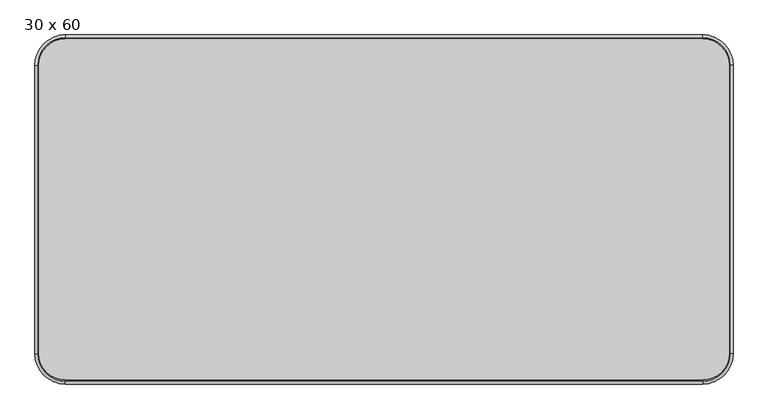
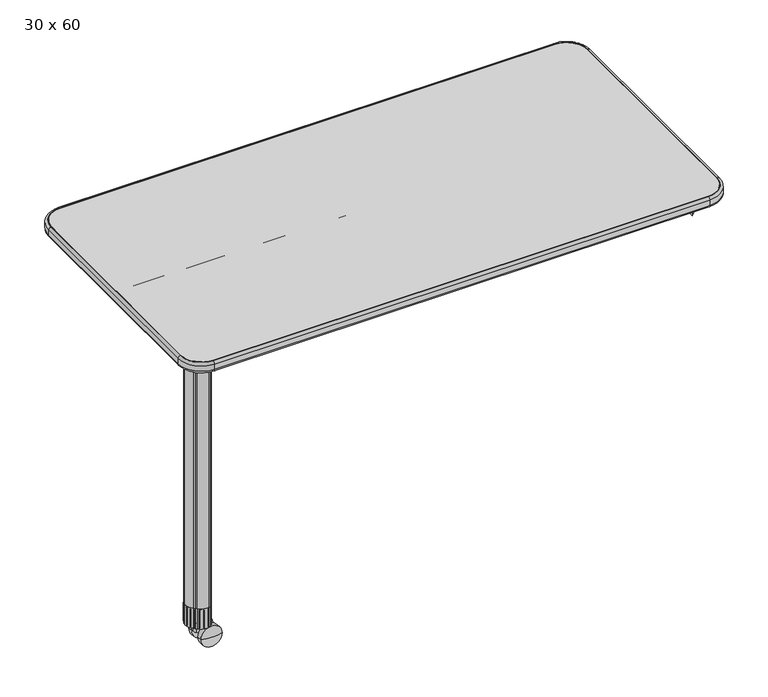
"""IFC4 building model written with IfcOpenShell, lengths in millimetres: furniture geometry, SmithSystem_AM_Desking_Education_Interchange_Student_Activity : 30 x 60."""

from ifc_helpers import new_model, si_unit, point, frame, frame_2d, origin, place, context, project, spatial, polyline, circle_curve, ellipse_curve, trimmed, segment, composite_curve, outline, extrude, source, transform, mapped, element, save
from ifc_brep_helpers import plane_surface, cylinder_surface, revolved_surface, advanced_brep


def furniture_30_x_60_6667bd11(model_context):
    return source(origin(), model_context, "Body", "SolidModel", [
        advanced_brep(
        [(44.3181701, 75.4828432, 35.017382), (104.9234839, 75.4828432, 35.017382), (74.620827, 75.4828432, 35.017382), (74.620827, 93.8056302, 35.017382), (104.9234839, 88.7241133, 35.017382), (44.3181701, 88.7241133, 35.017382)],
        [
            (0, 1, circle_curve(frame((74.620827, 75.4828432, 35.017382), z_axis=(0.0, -1.0, 0.0), x_axis=(1.0000000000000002, 0.0, 0.0)), 30.3026569)),
            (1, 2),
            (2, 0),
            (1, 0, circle_curve(frame((74.620827, 75.4828432, 35.017382), z_axis=(0.0, -1.0, 0.0), x_axis=(1.0000000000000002, 0.0, 0.0)), 30.3026569)),
            (3, 4, circle_curve(frame((74.620827, 0.9128138, 35.017382), z_axis=(0.0, 0.0, -1.0000000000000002), x_axis=(0.0, -1.0, 0.0)), 92.8928164)),
            (4, 5, circle_curve(frame((74.620827, 88.7241133, 35.017382), z_axis=(0.0, 1.0, 0.0), x_axis=(1.0000000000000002, 0.0, 0.0)), 30.3026569)),
            (5, 3, circle_curve(frame((74.620827, 0.9128138, 35.017382), z_axis=(0.0, 0.0, -1.0000000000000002), x_axis=(0.0, -1.0, 0.0)), 92.8928164)),
            (5, 4, circle_curve(frame((74.620827, 88.7241133, 35.017382), z_axis=(0.0, 1.0, 0.0), x_axis=(1.0000000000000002, 0.0, 0.0)), 30.3026569)),
            (4, 1),
            (0, 5),
        ],
        [
            plane_surface(frame((74.620827, 75.4828432, 35.017382), z_axis=(0.0, -1.0, 0.0), x_axis=(1.0, 0.0, 0.0))),
            revolved_surface(trimmed(ellipse_curve(frame((74.620827, 0.9128138, 35.017382), z_axis=(0.0, 0.0, 1.0000000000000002), x_axis=(0.0, -1.0, 0.0)), 92.8928164, 92.8928164), [point((104.9234839, 88.7241133, 35.017382))], [point((74.620827, 93.8056302, 35.017382))], True, "CARTESIAN"), (74.620827, 75.4828432, 35.017382), (0.0, 1.0, 0.0)),
            cylinder_surface(frame((74.620827, 75.4828432, 35.017382), z_axis=(0.0, 1.0, 0.0), x_axis=(1.0000000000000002, 0.0, 0.0)), 30.3026569),
        ],
        [
            (0, [[1, 2, 3]]),
            (0, [[4, -3, -2]]),
            (1, [[5, 6, 7]]),
            (1, [[-7, 8, -5]]),
            (2, [[-6, 9, -1, 10]]),
            (2, [[-8, -10, -4, -9]]),
        ],
    ),
        advanced_brep(
        [(44.3181701, 44.8805061, 35.017382), (104.9234839, 44.8805061, 35.017382), (104.9234839, 31.639236, 35.017382), (44.3181701, 31.639236, 35.017382), (74.620827, 26.5577191, 35.017382), (74.620827, 44.8805061, 35.017382)],
        [
            (0, 1, circle_curve(frame((74.620827, 44.8805061, 35.017382), z_axis=(0.0, -1.0, 0.0), x_axis=(1.0000000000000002, 0.0, 0.0)), 30.3026569)),
            (1, 2),
            (2, 3, circle_curve(frame((74.620827, 31.639236, 35.017382), z_axis=(0.0, 1.0, 0.0), x_axis=(1.0000000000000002, 0.0, 0.0)), 30.3026569)),
            (3, 0),
            (1, 0, circle_curve(frame((74.620827, 44.8805061, 35.017382), z_axis=(0.0, -1.0, 0.0), x_axis=(1.0000000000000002, 0.0, 0.0)), 30.3026569)),
            (3, 2, circle_curve(frame((74.620827, 31.639236, 35.017382), z_axis=(0.0, 1.0, 0.0), x_axis=(1.0000000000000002, 0.0, 0.0)), 30.3026569)),
            (2, 4, circle_curve(frame((74.620827, 119.4505355, 35.017382), z_axis=(0.0, 0.0, -1.0000000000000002), x_axis=(0.0, -1.0, 0.0)), 92.8928164)),
            (4, 3, circle_curve(frame((74.620827, 119.4505355, 35.017382), z_axis=(0.0, 0.0, -1.0000000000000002), x_axis=(0.0, -1.0, 0.0)), 92.8928164)),
            (5, 1),
            (0, 5),
        ],
        [
            cylinder_surface(frame((74.620827, 75.4828432, 35.017382), z_axis=(0.0, 1.0, 0.0), x_axis=(1.0000000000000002, 0.0, 0.0)), 30.3026569),
            revolved_surface(trimmed(ellipse_curve(frame((74.620827, 119.4505355, 35.017382), z_axis=(0.0, 0.0, 1.0000000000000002), x_axis=(0.0, -1.0, 0.0)), 92.8928164, 92.8928164), [point((74.620827, 26.5577191, 35.017382))], [point((104.9234839, 31.639236, 35.017382))], True, "CARTESIAN"), (74.620827, 75.4828432, 35.017382), (0.0, 1.0, 0.0)),
            plane_surface(frame((74.620827, 44.8805061, 35.017382), z_axis=(0.0, 1.0, 0.0), x_axis=(1.0, 0.0, 0.0))),
        ],
        [
            (0, [[1, 2, 3, 4]]),
            (0, [[5, -4, 6, -2]]),
            (1, [[-3, 7, 8]]),
            (1, [[-6, -8, -7]]),
            (2, [[9, -1, 10]]),
            (2, [[-10, -5, -9]]),
        ],
    ),
        advanced_brep(
        [(51.3766004, 59.5614841, 82.55), (66.4982897, 74.6831734, 82.55), (36.2549111, 44.4397948, 82.55), (44.5409023, 52.725786, 44.141232), (58.2122984, 66.3971821, 44.141232), (51.3766004, 59.5614841, 44.141232), (44.5409023, 52.725786, 70.5739), (58.2122984, 66.3971821, 70.5739), (48.2776927, 56.4625764, 70.5739), (54.475508, 62.6603917, 70.5739), (48.2776927, 56.4625764, 72.4789), (54.475508, 62.6603917, 72.4789), (44.5409023, 52.725786, 72.4789), (58.2122984, 66.3971821, 72.4789), (44.5409023, 52.725786, 77.5589), (58.2122984, 66.3971821, 77.5589), (36.2549111, 44.4397948, 77.5589), (66.4982897, 74.6831734, 77.5589)],
        [
            (0, 1),
            (1, 2, circle_curve(frame((51.3766004, 59.5614841, 82.55), z_axis=(0.0, 0.0, 1.0), x_axis=(0.7071067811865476, 0.7071067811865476, 0.0)), 21.3852981)),
            (2, 0),
            (2, 1, circle_curve(frame((51.3766004, 59.5614841, 82.55), z_axis=(0.0, 0.0, 1.0), x_axis=(0.7071067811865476, 0.7071067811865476, 0.0)), 21.3852981)),
            (3, 4, circle_curve(frame((51.3766004, 59.5614841, 44.141232), z_axis=(0.0, 0.0, -1.0), x_axis=(0.7071067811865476, 0.7071067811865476, 0.0)), 9.6671369)),
            (4, 5),
            (5, 3),
            (4, 3, circle_curve(frame((51.3766004, 59.5614841, 44.141232), z_axis=(0.0, 0.0, -1.0), x_axis=(0.7071067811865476, 0.7071067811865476, 0.0)), 9.6671369)),
            (6, 7, circle_curve(frame((51.3766004, 59.5614841, 70.5739), z_axis=(0.0, 0.0, -1.0), x_axis=(0.7071067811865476, 0.7071067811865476, 0.0)), 9.6671369)),
            (7, 4),
            (3, 6),
            (7, 6, circle_curve(frame((51.3766004, 59.5614841, 70.5739), z_axis=(0.0, 0.0, -1.0), x_axis=(0.7071067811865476, 0.7071067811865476, 0.0)), 9.6671369)),
            (8, 9, circle_curve(frame((51.3766004, 59.5614841, 70.5739), z_axis=(0.0, 0.0, -1.0), x_axis=(0.7071067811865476, 0.7071067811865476, 0.0)), 4.3825172)),
            (9, 7),
            (6, 8),
            (9, 8, circle_curve(frame((51.3766004, 59.5614841, 70.5739), z_axis=(0.0, 0.0, -1.0), x_axis=(0.7071067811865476, 0.7071067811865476, 0.0)), 4.3825172)),
            (10, 11, circle_curve(frame((51.3766004, 59.5614841, 72.4789), z_axis=(0.0, 0.0, -1.0), x_axis=(0.7071067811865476, 0.7071067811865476, 0.0)), 4.3825172)),
            (11, 9),
            (8, 10),
            (11, 10, circle_curve(frame((51.3766004, 59.5614841, 72.4789), z_axis=(0.0, 0.0, -1.0), x_axis=(0.7071067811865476, 0.7071067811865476, 0.0)), 4.3825172)),
            (12, 13, circle_curve(frame((51.3766004, 59.5614841, 72.4789), z_axis=(0.0, 0.0, -1.0), x_axis=(0.7071067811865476, 0.7071067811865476, 0.0)), 9.6671369)),
            (13, 11),
            (10, 12),
            (13, 12, circle_curve(frame((51.3766004, 59.5614841, 72.4789), z_axis=(0.0, 0.0, -1.0), x_axis=(0.7071067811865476, 0.7071067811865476, 0.0)), 9.6671369)),
            (14, 15, circle_curve(frame((51.3766004, 59.5614841, 77.5589), z_axis=(0.0, 0.0, -1.0), x_axis=(0.7071067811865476, 0.7071067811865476, 0.0)), 9.6671369)),
            (15, 13),
            (12, 14),
            (15, 14, circle_curve(frame((51.3766004, 59.5614841, 77.5589), z_axis=(0.0, 0.0, -1.0), x_axis=(0.7071067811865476, 0.7071067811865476, 0.0)), 9.6671369)),
            (16, 17, circle_curve(frame((51.3766004, 59.5614841, 77.5589), z_axis=(0.0, 0.0, -1.0), x_axis=(0.7071067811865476, 0.7071067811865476, 0.0)), 21.3852981)),
            (17, 15),
            (14, 16),
            (17, 16, circle_curve(frame((51.3766004, 59.5614841, 77.5589), z_axis=(0.0, 0.0, -1.0), x_axis=(0.7071067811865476, 0.7071067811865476, 0.0)), 21.3852981)),
            (1, 17),
            (16, 2),
        ],
        [
            plane_surface(frame((51.3766004, 59.5614841, 82.55), z_axis=(0.0, 0.0, 1.0000000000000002), x_axis=(0.7071067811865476, 0.7071067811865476, 0.0))),
            plane_surface(frame((51.3766004, 59.5614841, 44.141232), z_axis=(0.0, 0.0, -1.0000000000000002), x_axis=(0.7071067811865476, 0.7071067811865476, 0.0))),
            cylinder_surface(frame((51.3766004, 59.5614841, 56.841232), z_axis=(0.0, 0.0, 1.0), x_axis=(0.7071067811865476, 0.7071067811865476, 0.0)), 9.6671369),
            plane_surface(frame((51.3766004, 59.5614841, 70.5739), z_axis=(0.0, 0.0, 1.0000000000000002), x_axis=(0.7071067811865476, 0.7071067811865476, 0.0))),
            cylinder_surface(frame((51.3766004, 59.5614841, 56.841232), z_axis=(0.0, 0.0, 1.0), x_axis=(0.7071067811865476, 0.7071067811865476, 0.0)), 4.3825172),
            plane_surface(frame((51.3766004, 59.5614841, 72.4789), z_axis=(0.0, 0.0, -1.0000000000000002), x_axis=(0.7071067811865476, 0.7071067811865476, 0.0))),
            plane_surface(frame((51.3766004, 59.5614841, 77.5589), z_axis=(0.0, 0.0, -1.0000000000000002), x_axis=(0.7071067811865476, 0.7071067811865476, 0.0))),
            cylinder_surface(frame((51.3766004, 59.5614841, 56.841232), z_axis=(0.0, 0.0, 1.0), x_axis=(0.7071067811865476, 0.7071067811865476, 0.0)), 21.3852981),
        ],
        [
            (0, [[1, 2, 3]]),
            (0, [[-3, 4, -1]]),
            (1, [[5, 6, 7]]),
            (1, [[8, -7, -6]]),
            (2, [[9, 10, -5, 11]]),
            (2, [[12, -11, -8, -10]]),
            (3, [[13, 14, -9, 15]]),
            (3, [[16, -15, -12, -14]]),
            (4, [[17, 18, -13, 19]]),
            (4, [[20, -19, -16, -18]]),
            (5, [[21, 22, -17, 23]]),
            (5, [[24, -23, -20, -22]]),
            (2, [[25, 26, -21, 27]]),
            (2, [[28, -27, -24, -26]]),
            (6, [[29, 30, -25, 31]]),
            (6, [[32, -31, -28, -30]]),
            (7, [[-2, 33, -29, 34]]),
            (7, [[-4, -34, -32, -33]]),
        ],
    ),
        extrude(outline(composite_curve([segment(trimmed(circle_curve(frame_2d((47.190021, 48.1906998)), 32.5855406), [point((70.2314777, 71.2321565))], [point((79.5326739, 44.2195213))], False, "CARTESIAN"), True, "CONTINUOUS"), segment(trimmed(circle_curve(frame_2d((60.0047299, 46.6172514)), 19.6745954), [point((79.5326739, 44.2195213))], [point((78.1727203, 39.0665011))], False, "CARTESIAN"), True, "CONTINUOUS"), segment(trimmed(circle_curve(frame_2d((69.9070972, 42.5017548)), 8.9510611), [point((78.1727203, 39.0665011))], [point((76.2364532, 36.1723988))], False, "CARTESIAN"), True, "CONTINUOUS"), segment(polyline([(76.2364532, 36.1723988), (75.5010694, 35.4370151), (74.7656856, 34.7016313)]), True, "CONTINUOUS"), segment(trimmed(circle_curve(frame_2d((68.4363296, 41.0309873)), 8.9510611), [point((74.7656856, 34.7016313))], [point((71.8715833, 32.7653641))], False, "CARTESIAN"), True, "CONTINUOUS"), segment(trimmed(circle_curve(frame_2d((64.3208331, 50.9333545)), 19.6745954), [point((71.8715833, 32.7653641))], [point((66.7185631, 31.4054105))], False, "CARTESIAN"), True, "CONTINUOUS"), segment(trimmed(circle_curve(frame_2d((62.7473847, 63.7480635)), 32.5855406), [point((66.7185631, 31.4054105))], [point((39.7059279, 40.7066067))], False, "CARTESIAN"), True, "CONTINUOUS"), segment(polyline([(39.7059279, 40.7066067), (36.1138255, 44.2987092), (32.521723, 47.8908116)]), True, "CONTINUOUS"), segment(trimmed(circle_curve(frame_2d((55.5631798, 70.9322684)), 32.5855406), [point((32.521723, 47.8908116))], [point((23.2205268, 74.9034468))], False, "CARTESIAN"), True, "CONTINUOUS"), segment(trimmed(circle_curve(frame_2d((42.7484708, 72.5057168)), 19.6745954), [point((23.2205268, 74.9034468))], [point((24.5804804, 80.056467))], False, "CARTESIAN"), True, "CONTINUOUS"), segment(trimmed(circle_curve(frame_2d((32.8461036, 76.6212133)), 8.9510611), [point((24.5804804, 80.056467))], [point((26.5167476, 82.9505693))], False, "CARTESIAN"), True, "CONTINUOUS"), segment(polyline([(26.5167476, 82.9505693), (27.2521313, 83.6859531), (27.9875151, 84.4213369)]), True, "CONTINUOUS"), segment(trimmed(circle_curve(frame_2d((34.3168711, 78.0919809)), 8.9510611), [point((27.9875151, 84.4213369))], [point((30.8816174, 86.3576041))], False, "CARTESIAN"), True, "CONTINUOUS"), segment(trimmed(circle_curve(frame_2d((38.4323677, 68.1896136)), 19.6745954), [point((30.8816174, 86.3576041))], [point((36.0346376, 87.7175576))], False, "CARTESIAN"), True, "CONTINUOUS"), segment(trimmed(circle_curve(frame_2d((40.0058161, 55.3749047)), 32.5855406), [point((36.0346376, 87.7175576))], [point((63.0472728, 78.4163614))], False, "CARTESIAN"), True, "CONTINUOUS"), segment(polyline([(63.0472728, 78.4163614), (66.6393752, 74.824259), (70.2314777, 71.2321565)]), True, "CONTINUOUS")], self_intersect=False)), frame((0.0, 0.0, 63.4997351), z_axis=(0.0, 0.0, 1.0), x_axis=(1.0, 0.0, 0.0)), (0.0, 0.0, 1.0), 59.42631),
        extrude(outline(composite_curve([segment(polyline([(35.2157999, 45.1967348), (36.1138255, 44.2987092), (37.0118511, 43.4006836)]), True, "CONTINUOUS"), segment(trimmed(circle_curve(frame_2d((36.1138255, 44.2987092)), 1.27), [point((37.0118511, 43.4006836))], [point((35.2157999, 45.1967348))], False, "CARTESIAN"), True, "CONTINUOUS")], self_intersect=False)), frame((0.0, 0.0, 67.2639757), z_axis=(0.0, 0.0, 1.0), x_axis=(1.0, 0.0, 0.0)), (0.0, 0.0, 1.0), 52.9554897),
        extrude(outline(composite_curve([segment(polyline([(28.1764663, 84.5576694), (27.2784407, 83.6596437), (26.3804151, 82.7616181)]), True, "CONTINUOUS"), segment(trimmed(circle_curve(frame_2d((27.2784407, 83.6596437)), 1.27), [point((26.3804151, 82.7616181))], [point((28.1764663, 84.5576694))], False, "CARTESIAN"), True, "CONTINUOUS")], self_intersect=False)), frame((0.0, 0.0, 67.2639757), z_axis=(0.0, 0.0, 1.0), x_axis=(1.0, 0.0, 0.0)), (0.0, 0.0, 1.0), 52.9554897),
        extrude(outline(composite_curve([segment(trimmed(circle_curve(frame_2d((75.47476, 35.4633244)), 1.27), [point((76.3727856, 36.36135))], [point((74.5767344, 34.5652988))], False, "CARTESIAN"), True, "CONTINUOUS"), segment(polyline([(74.5767344, 34.5652988), (75.47476, 35.4633244), (76.3727856, 36.36135)]), True, "CONTINUOUS")], self_intersect=False)), frame((0.0, 0.0, 67.2639757), z_axis=(0.0, 0.0, 1.0), x_axis=(1.0, 0.0, 0.0)), (0.0, 0.0, 1.0), 52.9554897),
        extrude(outline(composite_curve([segment(trimmed(circle_curve(frame_2d((65.6084721, 31.3425404)), 1.27), [point((66.874417, 31.4439485))], [point((64.3425272, 31.2411324))], False, "CARTESIAN"), True, "CONTINUOUS"), segment(polyline([(64.3425272, 31.2411324), (65.6084721, 31.3425404), (66.874417, 31.4439485)]), True, "CONTINUOUS")], self_intersect=False)), frame((0.0, 0.0, 67.2639757), z_axis=(0.0, 0.0, 1.0), x_axis=(1.0, 0.0, 0.0)), (0.0, 0.0, 1.0), 52.9554897),
        extrude(outline(composite_curve([segment(trimmed(circle_curve(frame_2d((54.5655031, 32.2765941)), 1.27), [point((55.7954927, 31.960326))], [point((53.3355135, 32.5928623))], False, "CARTESIAN"), True, "CONTINUOUS"), segment(polyline([(53.3355135, 32.5928623), (54.5655031, 32.2765941), (55.7954927, 31.960326)]), True, "CONTINUOUS")], self_intersect=False)), frame((0.0, 0.0, 67.2639757), z_axis=(0.0, 0.0, 1.0), x_axis=(1.0, 0.0, 0.0)), (0.0, 0.0, 1.0), 52.9554897),
        extrude(outline(composite_curve([segment(trimmed(circle_curve(frame_2d((44.409403, 36.8760432)), 1.27), [point((45.4570451, 36.1581671))], [point((43.3617609, 37.5939193))], False, "CARTESIAN"), True, "CONTINUOUS"), segment(polyline([(43.3617609, 37.5939193), (44.409403, 36.8760432), (45.4570451, 36.1581671)]), True, "CONTINUOUS")], self_intersect=False)), frame((0.0, 0.0, 67.2639757), z_axis=(0.0, 0.0, 1.0), x_axis=(1.0, 0.0, 0.0)), (0.0, 0.0, 1.0), 52.9554897),
        extrude(outline(composite_curve([segment(polyline([(23.2590648, 75.0593007), (23.1576567, 73.7933558), (23.0562487, 72.5274109)]), True, "CONTINUOUS"), segment(trimmed(circle_curve(frame_2d((23.1576567, 73.7933558)), 1.27), [point((23.0562487, 72.5274109))], [point((23.2590648, 75.0593007))], False, "CARTESIAN"), True, "CONTINUOUS")], self_intersect=False)), frame((0.0, 0.0, 67.2639757), z_axis=(0.0, 0.0, 1.0), x_axis=(1.0, 0.0, 0.0)), (0.0, 0.0, 1.0), 52.9554897),
        extrude(outline(composite_curve([segment(polyline([(23.7754423, 63.9803764), (24.0917104, 62.7503868), (24.4079786, 61.5203972)]), True, "CONTINUOUS"), segment(trimmed(circle_curve(frame_2d((24.0917104, 62.7503868)), 1.27), [point((24.4079786, 61.5203972))], [point((23.7754423, 63.9803764))], False, "CARTESIAN"), True, "CONTINUOUS")], self_intersect=False)), frame((0.0, 0.0, 67.2639757), z_axis=(0.0, 0.0, 1.0), x_axis=(1.0, 0.0, 0.0)), (0.0, 0.0, 1.0), 52.9554897),
        extrude(outline(composite_curve([segment(polyline([(27.9732834, 53.6419288), (28.6911595, 52.5942867), (29.4090356, 51.5466446)]), True, "CONTINUOUS"), segment(trimmed(circle_curve(frame_2d((28.6911595, 52.5942867)), 1.27), [point((29.4090356, 51.5466446))], [point((27.9732834, 53.6419288))], False, "CARTESIAN"), True, "CONTINUOUS")], self_intersect=False)), frame((0.0, 0.0, 67.2639757), z_axis=(0.0, 0.0, 1.0), x_axis=(1.0, 0.0, 0.0)), (0.0, 0.0, 1.0), 52.9554897),
        extrude(outline(composite_curve([segment(trimmed(circle_curve(frame_2d((66.6393752, 74.824259)), 1.27), [point((65.7413496, 75.7222846))], [point((67.5374009, 73.9262333))], False, "CARTESIAN"), True, "CONTINUOUS"), segment(polyline([(67.5374009, 73.9262333), (66.6393752, 74.824259), (65.7413496, 75.7222846)]), True, "CONTINUOUS")], self_intersect=False)), frame((0.0, 0.0, 67.2639757), z_axis=(0.0, 0.0, 1.0), x_axis=(1.0, 0.0, 0.0)), (0.0, 0.0, 1.0), 52.9554897),
        extrude(outline(composite_curve([segment(polyline([(79.4941359, 44.0636675), (79.595544, 45.3296123), (79.696952, 46.5955572)]), True, "CONTINUOUS"), segment(trimmed(circle_curve(frame_2d((79.595544, 45.3296123)), 1.27), [point((79.696952, 46.5955572))], [point((79.4941359, 44.0636675))], False, "CARTESIAN"), True, "CONTINUOUS")], self_intersect=False)), frame((0.0, 0.0, 67.2639757), z_axis=(0.0, 0.0, 1.0), x_axis=(1.0, 0.0, 0.0)), (0.0, 0.0, 1.0), 52.9554897),
        extrude(outline(composite_curve([segment(polyline([(78.9777584, 55.1425917), (78.6614903, 56.3725813), (78.3452221, 57.602571)]), True, "CONTINUOUS"), segment(trimmed(circle_curve(frame_2d((78.6614903, 56.3725813)), 1.27), [point((78.3452221, 57.602571))], [point((78.9777584, 55.1425917))], False, "CARTESIAN"), True, "CONTINUOUS")], self_intersect=False)), frame((0.0, 0.0, 67.2639757), z_axis=(0.0, 0.0, 1.0), x_axis=(1.0, 0.0, 0.0)), (0.0, 0.0, 1.0), 52.9554897),
        extrude(outline(composite_curve([segment(polyline([(74.7799173, 65.4810394), (74.0620412, 66.5286815), (73.3441651, 67.5763235)]), True, "CONTINUOUS"), segment(trimmed(circle_curve(frame_2d((74.0620412, 66.5286815)), 1.27), [point((73.3441651, 67.5763235))], [point((74.7799173, 65.4810394))], False, "CARTESIAN"), True, "CONTINUOUS")], self_intersect=False)), frame((0.0, 0.0, 67.2639757), z_axis=(0.0, 0.0, 1.0), x_axis=(1.0, 0.0, 0.0)), (0.0, 0.0, 1.0), 52.9554897),
        extrude(outline(composite_curve([segment(trimmed(circle_curve(frame_2d((37.1447286, 87.7804277)), 1.27), [point((35.8787838, 87.6790197))], [point((38.4106735, 87.8818357))], False, "CARTESIAN"), True, "CONTINUOUS"), segment(polyline([(38.4106735, 87.8818357), (37.1447286, 87.7804277), (35.8787838, 87.6790197)]), True, "CONTINUOUS")], self_intersect=False)), frame((0.0, 0.0, 67.2639757), z_axis=(0.0, 0.0, 1.0), x_axis=(1.0, 0.0, 0.0)), (0.0, 0.0, 1.0), 52.9554897),
        extrude(outline(composite_curve([segment(trimmed(circle_curve(frame_2d((48.1876976, 86.846374)), 1.27), [point((46.957708, 87.1626422))], [point((49.4176872, 86.5301059))], False, "CARTESIAN"), True, "CONTINUOUS"), segment(polyline([(49.4176872, 86.5301059), (48.1876976, 86.846374), (46.957708, 87.1626422)]), True, "CONTINUOUS")], self_intersect=False)), frame((0.0, 0.0, 67.2639757), z_axis=(0.0, 0.0, 1.0), x_axis=(1.0, 0.0, 0.0)), (0.0, 0.0, 1.0), 52.9554897),
        extrude(outline(composite_curve([segment(trimmed(circle_curve(frame_2d((58.3437977, 82.2469249)), 1.27), [point((57.2961557, 82.964801))], [point((59.3914398, 81.5290489))], False, "CARTESIAN"), True, "CONTINUOUS"), segment(polyline([(59.3914398, 81.5290489), (58.3437977, 82.2469249), (57.2961557, 82.964801)]), True, "CONTINUOUS")], self_intersect=False)), frame((0.0, 0.0, 67.2639757), z_axis=(0.0, 0.0, 1.0), x_axis=(1.0, 0.0, 0.0)), (0.0, 0.0, 1.0), 52.9554897),
        extrude(outline(composite_curve([segment(polyline([(39.7059279, 40.7066067), (36.1138255, 44.2987092), (32.521723, 47.8908116)]), True, "CONTINUOUS"), segment(trimmed(circle_curve(frame_2d((55.5631798, 70.9322684)), 32.5855406), [point((32.521723, 47.8908116))], [point((23.2205268, 74.9034468))], False, "CARTESIAN"), True, "CONTINUOUS"), segment(trimmed(circle_curve(frame_2d((42.7484708, 72.5057168)), 19.6745954), [point((23.2205268, 74.9034468))], [point((24.5804804, 80.056467))], False, "CARTESIAN"), True, "CONTINUOUS"), segment(trimmed(circle_curve(frame_2d((32.8461036, 76.6212133)), 8.9510611), [point((24.5804804, 80.056467))], [point((26.5167476, 82.9505693))], False, "CARTESIAN"), True, "CONTINUOUS"), segment(polyline([(26.5167476, 82.9505693), (27.2521313, 83.6859531), (27.9875151, 84.4213369)]), True, "CONTINUOUS"), segment(trimmed(circle_curve(frame_2d((34.3168711, 78.0919809)), 8.9510611), [point((27.9875151, 84.4213369))], [point((30.8816174, 86.3576041))], False, "CARTESIAN"), True, "CONTINUOUS"), segment(trimmed(circle_curve(frame_2d((38.4323677, 68.1896136)), 19.6745954), [point((30.8816174, 86.3576041))], [point((36.0346376, 87.7175576))], False, "CARTESIAN"), True, "CONTINUOUS"), segment(trimmed(circle_curve(frame_2d((40.0058161, 55.3749047)), 32.5855406), [point((36.0346376, 87.7175576))], [point((63.0472728, 78.4163614))], False, "CARTESIAN"), True, "CONTINUOUS"), segment(polyline([(63.0472728, 78.4163614), (66.6393752, 74.824259), (70.2314777, 71.2321565)]), True, "CONTINUOUS"), segment(trimmed(circle_curve(frame_2d((47.190021, 48.1906998)), 32.5855406), [point((70.2314777, 71.2321565))], [point((79.5326739, 44.2195213))], False, "CARTESIAN"), True, "CONTINUOUS"), segment(trimmed(circle_curve(frame_2d((60.0047299, 46.6172514)), 19.6745954), [point((79.5326739, 44.2195213))], [point((78.1727203, 39.0665011))], False, "CARTESIAN"), True, "CONTINUOUS"), segment(trimmed(circle_curve(frame_2d((69.9070972, 42.5017548)), 8.9510611), [point((78.1727203, 39.0665011))], [point((76.2364532, 36.1723988))], False, "CARTESIAN"), True, "CONTINUOUS"), segment(polyline([(76.2364532, 36.1723988), (75.5010694, 35.4370151), (74.7656856, 34.7016313)]), True, "CONTINUOUS"), segment(trimmed(circle_curve(frame_2d((68.4363296, 41.0309873)), 8.9510611), [point((74.7656856, 34.7016313))], [point((71.8715833, 32.7653641))], False, "CARTESIAN"), True, "CONTINUOUS"), segment(trimmed(circle_curve(frame_2d((64.3208331, 50.9333545)), 19.6745954), [point((71.8715833, 32.7653641))], [point((66.7185631, 31.4054105))], False, "CARTESIAN"), True, "CONTINUOUS"), segment(trimmed(circle_curve(frame_2d((62.7473847, 63.7480635)), 32.5855406), [point((66.7185631, 31.4054105))], [point((39.7059279, 40.7066067))], False, "CARTESIAN"), True, "CONTINUOUS")], self_intersect=False)), frame((0.0, 0.0, 122.9260451), z_axis=(0.0, 0.0, 1.0), x_axis=(1.0, 0.0, 0.0)), (0.0, 0.0, 1.0), 719.5839191),
        extrude(outline(polyline([(50.0797748, 85.1609527), (53.4246351, 88.5058129), (80.2662632, 61.6641848), (76.921403, 58.3193245), (50.0797748, 85.1609527)])), frame((0.0, 0.0, 786.4834421), z_axis=(0.0, 0.0, 1.0), x_axis=(1.0, 0.0, 0.0)), (0.0, 0.0, 1.0), 56.0265221),
        extrude(outline(polyline([(53.7381843, 88.1922637), (53.7381843, 673.8077363), (79.1384349, 699.2079869), (79.1384349, 62.7920131), (53.7381843, 88.1922637)])), frame((0.0, 0.0, 786.4834421), z_axis=(0.0, 0.0, 1.0), x_axis=(1.0, 0.0, 0.0)), (0.0, 0.0, 1.0), 57.997768),
        extrude(outline(polyline([(1470.2618157, 88.1922637), (1444.8615651, 62.7920131), (1444.8615651, 699.2088142), (1470.2618157, 673.8085636), (1470.2618157, 88.1922637)])), frame((0.0, 0.0, 786.4834421), z_axis=(0.0, 0.0, 1.0), x_axis=(1.0, 0.0, 0.0)), (0.0, 0.0, 1.0), 57.997768),
        extrude(outline(composite_curve([segment(polyline([(405.9790347, 791.9364644), (415.5040301, 791.9364644)]), True, "CONTINUOUS"), segment(trimmed(circle_curve(frame_2d((415.5040301, 793.2140799)), 1.2776155), [point((415.5040301, 791.9364644))], [point((416.7816457, 793.2140799))], True, "CARTESIAN"), True, "CONTINUOUS"), segment(polyline([(416.7816457, 793.2140799), (416.7816457, 841.2399641)]), True, "CONTINUOUS"), segment(trimmed(circle_curve(frame_2d((415.5116457, 841.2399641)), 1.27), [point((416.7816457, 841.2399641))], [point((415.5116457, 842.5099641))], True, "CARTESIAN"), True, "CONTINUOUS"), segment(polyline([(415.5116457, 842.5099641), (346.4883543, 842.5099641)]), True, "CONTINUOUS"), segment(trimmed(circle_curve(frame_2d((346.4883543, 841.2399641)), 1.27), [point((346.4883543, 842.5099641))], [point((345.2183543, 841.2399641))], True, "CARTESIAN"), True, "CONTINUOUS"), segment(polyline([(345.2183543, 841.2399641), (345.2183543, 793.2140799)]), True, "CONTINUOUS"), segment(trimmed(circle_curve(frame_2d((346.4959699, 793.2140799)), 1.2776155), [point((345.2183543, 793.2140799))], [point((346.4959699, 791.9364644))], True, "CARTESIAN"), True, "CONTINUOUS"), segment(polyline([(346.4959699, 791.9364644), (356.0209653, 791.9364644), (356.0209653, 790.0390874), (346.4959699, 790.0390874)]), True, "CONTINUOUS"), segment(trimmed(circle_curve(frame_2d((346.4959699, 793.2141094)), 3.175022), [point((346.4959699, 790.0390874))], [point((343.3209479, 793.2141094))], False, "CARTESIAN"), True, "CONTINUOUS"), segment(polyline([(343.3209479, 793.2141094), (343.3209479, 841.1792101)]), True, "CONTINUOUS"), segment(trimmed(circle_curve(frame_2d((346.6229479, 841.1792101)), 3.302), [point((343.3209479, 841.1792101))], [point((346.6229479, 844.4812101))], False, "CARTESIAN"), True, "CONTINUOUS"), segment(polyline([(346.6229479, 844.4812101), (415.3770521, 844.4812101)]), True, "CONTINUOUS"), segment(trimmed(circle_curve(frame_2d((415.3770521, 841.1792101)), 3.302), [point((415.3770521, 844.4812101))], [point((418.6790521, 841.1792101))], False, "CARTESIAN"), True, "CONTINUOUS"), segment(polyline([(418.6790521, 841.1792101), (418.6790521, 793.2141094)]), True, "CONTINUOUS"), segment(trimmed(circle_curve(frame_2d((415.5040301, 793.2141094)), 3.175022), [point((418.6790521, 793.2141094))], [point((415.5040301, 790.0390874))], False, "CARTESIAN"), True, "CONTINUOUS"), segment(polyline([(415.5040301, 790.0390874), (405.9790347, 790.0390874), (405.9790347, 791.9364644)]), True, "CONTINUOUS")], self_intersect=False)), frame((79.1384349, 0.0, 0.0), z_axis=(1.0, 0.0, 0.0), x_axis=(0.0, 1.0, 0.0)), (0.0, 0.0, 1.0), 1365.7231302),
        extrude(outline(composite_curve([segment(trimmed(circle_curve(frame_2d((91.0568087, 559.9761036)), 12.7), [point((103.7568087, 559.9761036))], [point((91.0568087, 547.2761036))], False, "CARTESIAN"), True, "CONTINUOUS"), segment(polyline([(91.0568087, 547.2761036), (37.0817672, 547.2761036)]), True, "CONTINUOUS"), segment(trimmed(circle_curve(frame_2d((37.0817672, 559.9761036)), 12.7), [point((37.0817672, 547.2761036))], [point((24.3817672, 559.9761036))], False, "CARTESIAN"), True, "CONTINUOUS"), segment(polyline([(24.3817672, 559.9761036), (24.3817672, 724.3144586)]), True, "CONTINUOUS"), segment(trimmed(circle_curve(frame_2d((37.0817672, 724.3144586)), 12.7), [point((24.3817672, 724.3144586))], [point((37.0817672, 737.0144586))], False, "CARTESIAN"), True, "CONTINUOUS"), segment(polyline([(37.0817672, 737.0144586), (91.0568087, 737.0144586)]), True, "CONTINUOUS"), segment(trimmed(circle_curve(frame_2d((91.0568087, 724.3144586)), 12.7), [point((91.0568087, 737.0144586))], [point((103.7568087, 724.3144586))], False, "CARTESIAN"), True, "CONTINUOUS"), segment(polyline([(103.7568087, 724.3144586), (103.7568087, 559.9761036)]), True, "CONTINUOUS")], self_intersect=False)), frame((0.0, 0.0, 842.5099641), z_axis=(0.0, 0.0, 1.0), x_axis=(1.0, 0.0, 0.0)), (0.0, 0.0, 1.0), 1.971246),
        extrude(outline(composite_curve([segment(trimmed(circle_curve(frame_2d((91.0568087, 37.6941247)), 12.7), [point((103.7568087, 37.6941247))], [point((91.0568087, 24.9941247))], False, "CARTESIAN"), True, "CONTINUOUS"), segment(polyline([(91.0568087, 24.9941247), (37.0817672, 24.9941247)]), True, "CONTINUOUS"), segment(trimmed(circle_curve(frame_2d((37.0817672, 37.6941247)), 12.7), [point((37.0817672, 24.9941247))], [point((24.3817672, 37.6941247))], False, "CARTESIAN"), True, "CONTINUOUS"), segment(polyline([(24.3817672, 37.6941247), (24.3817672, 202.0324797)]), True, "CONTINUOUS"), segment(trimmed(circle_curve(frame_2d((37.0817672, 202.0324797)), 12.7), [point((24.3817672, 202.0324797))], [point((37.0817672, 214.7324797))], False, "CARTESIAN"), True, "CONTINUOUS"), segment(polyline([(37.0817672, 214.7324797), (91.0568087, 214.7324797)]), True, "CONTINUOUS"), segment(trimmed(circle_curve(frame_2d((91.0568087, 202.0324797)), 12.7), [point((91.0568087, 214.7324797))], [point((103.7568087, 202.0324797))], False, "CARTESIAN"), True, "CONTINUOUS"), segment(polyline([(103.7568087, 202.0324797), (103.7568087, 37.6941247)]), True, "CONTINUOUS")], self_intersect=False)), frame((0.0, 0.0, 842.5099641), z_axis=(0.0, 0.0, 1.0), x_axis=(1.0, 0.0, 0.0)), (0.0, 0.0, 1.0), 1.971246),
        extrude(outline(composite_curve([segment(polyline([(1420.2431913, 559.9761036), (1420.2431913, 724.3144586)]), True, "CONTINUOUS"), segment(trimmed(circle_curve(frame_2d((1432.9431913, 724.3144586)), 12.7), [point((1420.2431913, 724.3144586))], [point((1432.9431913, 737.0144586))], False, "CARTESIAN"), True, "CONTINUOUS"), segment(polyline([(1432.9431913, 737.0144586), (1486.9182328, 737.0144586)]), True, "CONTINUOUS"), segment(trimmed(circle_curve(frame_2d((1486.9182328, 724.3144586)), 12.7), [point((1486.9182328, 737.0144586))], [point((1499.6182328, 724.3144586))], False, "CARTESIAN"), True, "CONTINUOUS"), segment(polyline([(1499.6182328, 724.3144586), (1499.6182328, 559.9761036)]), True, "CONTINUOUS"), segment(trimmed(circle_curve(frame_2d((1486.9182328, 559.9761036)), 12.7), [point((1499.6182328, 559.9761036))], [point((1486.9182328, 547.2761036))], False, "CARTESIAN"), True, "CONTINUOUS"), segment(polyline([(1486.9182328, 547.2761036), (1432.9431913, 547.2761036)]), True, "CONTINUOUS"), segment(trimmed(circle_curve(frame_2d((1432.9431913, 559.9761036)), 12.7), [point((1432.9431913, 547.2761036))], [point((1420.2431913, 559.9761036))], False, "CARTESIAN"), True, "CONTINUOUS")], self_intersect=False)), frame((0.0, 0.0, 842.5099641), z_axis=(0.0, 0.0, 1.0), x_axis=(1.0, 0.0, 0.0)), (0.0, 0.0, 1.0), 1.971246),
        extrude(outline(composite_curve([segment(polyline([(1420.2431913, 37.6941247), (1420.2431913, 202.0324797)]), True, "CONTINUOUS"), segment(trimmed(circle_curve(frame_2d((1432.9431913, 202.0324797)), 12.7), [point((1420.2431913, 202.0324797))], [point((1432.9431913, 214.7324797))], False, "CARTESIAN"), True, "CONTINUOUS"), segment(polyline([(1432.9431913, 214.7324797), (1486.9182328, 214.7324797)]), True, "CONTINUOUS"), segment(trimmed(circle_curve(frame_2d((1486.9182328, 202.0324797)), 12.7), [point((1486.9182328, 214.7324797))], [point((1499.6182328, 202.0324797))], False, "CARTESIAN"), True, "CONTINUOUS"), segment(polyline([(1499.6182328, 202.0324797), (1499.6182328, 37.6941247)]), True, "CONTINUOUS"), segment(trimmed(circle_curve(frame_2d((1486.9182328, 37.6941247)), 12.7), [point((1499.6182328, 37.6941247))], [point((1486.9182328, 24.9941247))], False, "CARTESIAN"), True, "CONTINUOUS"), segment(polyline([(1486.9182328, 24.9941247), (1432.9431913, 24.9941247)]), True, "CONTINUOUS"), segment(trimmed(circle_curve(frame_2d((1432.9431913, 37.6941247)), 12.7), [point((1432.9431913, 24.9941247))], [point((1420.2431913, 37.6941247))], False, "CARTESIAN"), True, "CONTINUOUS")], self_intersect=False)), frame((0.0, 0.0, 842.5099641), z_axis=(0.0, 0.0, 1.0), x_axis=(1.0, 0.0, 0.0)), (0.0, 0.0, 1.0), 1.971246),
        extrude(outline(composite_curve([segment(trimmed(circle_curve(frame_2d((1457.96, 695.9608295)), 57.15), [point((1457.96, 753.1108295))], [point((1515.11, 695.9608295))], False, "CARTESIAN"), True, "CONTINUOUS"), segment(polyline([(1515.11, 695.9608295), (1515.11, 66.04)]), True, "CONTINUOUS"), segment(trimmed(circle_curve(frame_2d((1457.96, 66.04)), 57.15), [point((1515.11, 66.04))], [point((1457.96, 8.89))], False, "CARTESIAN"), True, "CONTINUOUS"), segment(polyline([(1457.96, 8.89), (66.04, 8.89)]), True, "CONTINUOUS"), segment(trimmed(circle_curve(frame_2d((66.04, 66.04)), 57.15), [point((66.04, 8.89))], [point((8.89, 66.04))], False, "CARTESIAN"), True, "CONTINUOUS"), segment(polyline([(8.89, 66.04), (8.89, 695.9608295)]), True, "CONTINUOUS"), segment(trimmed(circle_curve(frame_2d((66.04, 695.9608295)), 57.15), [point((8.89, 695.9608295))], [point((66.04, 753.1108295))], False, "CARTESIAN"), True, "CONTINUOUS"), segment(polyline([(66.04, 753.1108295), (1457.96, 753.1108295)]), True, "CONTINUOUS")], self_intersect=False)), frame((0.0, 0.0, 844.4812101), z_axis=(0.0, 0.0, 1.0), x_axis=(1.0, 0.0, 0.0)), (0.0, 0.0, 1.0), 28.60385),
        advanced_brep(
        [(66.04, 0.0, 850.8312101), (66.04, 6.35, 844.4812101), (1457.96, 6.35, 844.4812101), (1457.96, 0.0, 850.8312101), (66.04, 0.0, 866.7350601), (1457.96, 0.0, 866.7350601), (66.04, 6.35, 873.0850601), (1457.96, 6.35, 873.0850601), (66.04, 8.89, 844.4812101), (66.04, 8.89, 873.0850601), (1457.96, 8.89, 873.0850601), (1457.96, 8.89, 844.4812101), (1524.0, 66.04, 850.8312101), (1517.65, 66.04, 844.4812101), (1524.0, 66.04, 866.7350601), (1517.65, 66.04, 873.0850601), (1515.11, 66.04, 844.4812101), (1515.11, 66.04, 873.0850601), (1517.65, 695.9608295, 844.4812101), (1524.0, 695.9608295, 850.8312101), (1524.0, 695.9608295, 866.7350601), (1517.65, 695.9608295, 873.0850601), (1515.11, 695.9608295, 873.0850601), (1515.11, 695.9608295, 844.4812101), (1457.96, 762.0008295, 850.8312101), (1457.96, 755.6508295, 844.4812101), (1457.96, 762.0008295, 866.7350601), (1457.96, 755.6508295, 873.0850601), (1457.96, 753.1108295, 844.4812101), (1457.96, 753.1108295, 873.0850601), (0.0, 695.9608295, 850.8312101), (66.04, 762.0008295, 850.8312101), (66.04, 755.6508295, 844.4812101), (6.35, 695.9608295, 844.4812101), (0.0, 695.9608295, 866.7350601), (66.04, 762.0008295, 866.7350601), (6.35, 695.9608295, 873.0850601), (66.04, 755.6508295, 873.0850601), (8.89, 695.9608295, 844.4812101), (66.04, 753.1108295, 844.4812101), (66.04, 753.1108295, 873.0850601), (8.89, 695.9608295, 873.0850601), (6.35, 66.04, 844.4812101), (0.0, 66.04, 850.8312101), (0.0, 66.04, 866.7350601), (6.35, 66.04, 873.0850601), (8.89, 66.04, 873.0850601), (8.89, 66.04, 844.4812101)],
        [
            (0, 1, circle_curve(frame((66.04, 6.35, 850.8312101), z_axis=(1.0, 0.0, 0.0), x_axis=(0.0, 1.0, 0.0)), 6.35)),
            (1, 2),
            (2, 3, circle_curve(frame((1457.96, 6.35, 850.8312101), z_axis=(-1.0, 0.0, 0.0), x_axis=(0.0, 1.0, 0.0)), 6.35)),
            (3, 0),
            (4, 0),
            (3, 5),
            (5, 4),
            (6, 4, circle_curve(frame((66.04, 6.35, 866.7350601), z_axis=(1.0, 0.0, 0.0), x_axis=(0.0, 1.0, 0.0)), 6.35)),
            (5, 7, circle_curve(frame((1457.96, 6.35, 866.7350601), z_axis=(-1.0, 0.0, 0.0), x_axis=(0.0, 1.0, 0.0)), 6.35)),
            (7, 6),
            (8, 9),
            (9, 10),
            (10, 11),
            (11, 8),
            (12, 3, circle_curve(frame((1457.96, 66.04, 850.8312101), z_axis=(0.0, 0.0, -1.0), x_axis=(0.0, -1.0, 0.0)), 66.04)),
            (2, 13, circle_curve(frame((1457.96, 66.04, 844.4812101), z_axis=(0.0, 0.0, 1.0), x_axis=(0.0, -1.0, 0.0)), 59.69)),
            (13, 12, circle_curve(frame((1517.65, 66.04, 850.8312101), z_axis=(0.0, -1.0, 0.0), x_axis=(-1.0, 0.0, 0.0)), 6.35)),
            (14, 5, circle_curve(frame((1457.96, 66.04, 866.7350601), z_axis=(0.0, 0.0, -1.0), x_axis=(0.0, -1.0, 0.0)), 66.04)),
            (12, 14),
            (15, 7, circle_curve(frame((1457.96, 66.04, 873.0850601), z_axis=(0.0, 0.0, -1.0), x_axis=(0.0, -1.0, 0.0)), 59.69)),
            (14, 15, circle_curve(frame((1517.65, 66.04, 866.7350601), z_axis=(0.0, -1.0, 0.0), x_axis=(-1.0, 0.0, 0.0)), 6.35)),
            (16, 11, circle_curve(frame((1457.96, 66.04, 844.4812101), z_axis=(0.0, 0.0, -1.0), x_axis=(0.0, -1.0, 0.0)), 57.15)),
            (10, 17, circle_curve(frame((1457.96, 66.04, 873.0850601), z_axis=(0.0, 0.0, 1.0), x_axis=(0.0, -1.0, 0.0)), 57.15)),
            (17, 16),
            (13, 18),
            (18, 19, circle_curve(frame((1517.65, 695.9608295, 850.8312101), z_axis=(0.0, -1.0, 0.0), x_axis=(-1.0, 0.0, 0.0)), 6.35)),
            (19, 12),
            (19, 20),
            (20, 14),
            (20, 21, circle_curve(frame((1517.65, 695.9608295, 866.7350601), z_axis=(0.0, -1.0, 0.0), x_axis=(-1.0, 0.0, 0.0)), 6.35)),
            (21, 15),
            (17, 22),
            (22, 23),
            (23, 16),
            (24, 19, circle_curve(frame((1457.96, 695.9608295, 850.8312101), z_axis=(0.0, 0.0, -1.0), x_axis=(1.0, 0.0, 0.0)), 66.04)),
            (18, 25, circle_curve(frame((1457.96, 695.9608295, 844.4812101), z_axis=(0.0, 0.0, 1.0), x_axis=(1.0, 0.0, 0.0)), 59.69)),
            (25, 24, circle_curve(frame((1457.96, 755.6508295, 850.8312101), z_axis=(1.0, 0.0, 0.0), x_axis=(0.0, -1.0, 0.0)), 6.35)),
            (26, 20, circle_curve(frame((1457.96, 695.9608295, 866.7350601), z_axis=(0.0, 0.0, -1.0), x_axis=(1.0, 0.0, 0.0)), 66.04)),
            (24, 26),
            (27, 21, circle_curve(frame((1457.96, 695.9608295, 873.0850601), z_axis=(0.0, 0.0, -1.0), x_axis=(1.0, 0.0, 0.0)), 59.69)),
            (26, 27, circle_curve(frame((1457.96, 755.6508295, 866.7350601), z_axis=(1.0, 0.0, 0.0), x_axis=(0.0, -1.0, 0.0)), 6.35)),
            (28, 23, circle_curve(frame((1457.96, 695.9608295, 844.4812101), z_axis=(0.0, 0.0, -1.0), x_axis=(1.0, 0.0, 0.0)), 57.15)),
            (22, 29, circle_curve(frame((1457.96, 695.9608295, 873.0850601), z_axis=(0.0, 0.0, 1.0), x_axis=(1.0, 0.0, 0.0)), 57.15)),
            (29, 28),
            (30, 31, circle_curve(frame((66.04, 695.9608295, 850.8312101), z_axis=(0.0, 0.0, -1.0), x_axis=(0.0, 1.0, 0.0)), 66.04)),
            (31, 32, circle_curve(frame((66.04, 755.6508295, 850.8312101), z_axis=(-1.0, 0.0, 0.0), x_axis=(0.0, -1.0, 0.0)), 6.35)),
            (32, 33, circle_curve(frame((66.04, 695.9608295, 844.4812101), z_axis=(0.0, 0.0, 1.0), x_axis=(0.0, 1.0, 0.0)), 59.69)),
            (33, 30, circle_curve(frame((6.35, 695.9608295, 850.8312101), z_axis=(0.0, 1.0, 0.0), x_axis=(1.0, 0.0, 0.0)), 6.35)),
            (34, 35, circle_curve(frame((66.04, 695.9608295, 866.7350601), z_axis=(0.0, 0.0, -1.0), x_axis=(0.0, 1.0, 0.0)), 66.04)),
            (35, 31),
            (30, 34),
            (36, 37, circle_curve(frame((66.04, 695.9608295, 873.0850601), z_axis=(0.0, 0.0, -1.0), x_axis=(0.0, 1.0, 0.0)), 59.69)),
            (37, 35, circle_curve(frame((66.04, 755.6508295, 866.7350601), z_axis=(-1.0, 0.0, 0.0), x_axis=(0.0, -1.0, 0.0)), 6.35)),
            (34, 36, circle_curve(frame((6.35, 695.9608295, 866.7350601), z_axis=(0.0, 1.0, 0.0), x_axis=(1.0, 0.0, 0.0)), 6.35)),
            (38, 39, circle_curve(frame((66.04, 695.9608295, 844.4812101), z_axis=(0.0, 0.0, -1.0), x_axis=(0.0, 1.0, 0.0)), 57.15)),
            (39, 40),
            (40, 41, circle_curve(frame((66.04, 695.9608295, 873.0850601), z_axis=(0.0, 0.0, 1.0), x_axis=(0.0, 1.0, 0.0)), 57.15)),
            (41, 38),
            (33, 42),
            (42, 43, circle_curve(frame((6.35, 66.04, 850.8312101), z_axis=(0.0, 1.0, 0.0), x_axis=(1.0, 0.0, 0.0)), 6.35)),
            (43, 30),
            (43, 44),
            (44, 34),
            (44, 45, circle_curve(frame((6.35, 66.04, 866.7350601), z_axis=(0.0, 1.0, 0.0), x_axis=(1.0, 0.0, 0.0)), 6.35)),
            (45, 36),
            (41, 46),
            (46, 47),
            (47, 38),
            (0, 43, circle_curve(frame((66.04, 66.04, 850.8312101), z_axis=(0.0, 0.0, -1.0), x_axis=(-1.0, 0.0, 0.0)), 66.04)),
            (42, 1, circle_curve(frame((66.04, 66.04, 844.4812101), z_axis=(0.0, 0.0, 1.0), x_axis=(-1.0, 0.0, 0.0)), 59.69)),
            (4, 44, circle_curve(frame((66.04, 66.04, 866.7350601), z_axis=(0.0, 0.0, -1.0), x_axis=(-1.0, 0.0, 0.0)), 66.04)),
            (6, 45, circle_curve(frame((66.04, 66.04, 873.0850601), z_axis=(0.0, 0.0, -1.0), x_axis=(-1.0, 0.0, 0.0)), 59.69)),
            (8, 47, circle_curve(frame((66.04, 66.04, 844.4812101), z_axis=(0.0, 0.0, -1.0), x_axis=(-1.0, 0.0, 0.0)), 57.15)),
            (46, 9, circle_curve(frame((66.04, 66.04, 873.0850601), z_axis=(0.0, 0.0, 1.0), x_axis=(-1.0, 0.0, 0.0)), 57.15)),
            (32, 25),
            (28, 39),
            (31, 24),
            (35, 26),
            (37, 27),
            (40, 29),
        ],
        [
            cylinder_surface(frame((66.04, 6.35, 850.8312101), z_axis=(-1.0, 0.0, 0.0), x_axis=(0.0, 1.0, 0.0)), 6.35),
            plane_surface(frame((66.04, 0.0, 850.8312101), z_axis=(0.0, -1.0, 0.0), x_axis=(1.0, 0.0, 0.0))),
            cylinder_surface(frame((66.04, 6.35, 866.7350601), z_axis=(-1.0, 0.0, 0.0), x_axis=(0.0, 1.0, 0.0)), 6.35),
            plane_surface(frame((66.04, 8.89, 873.0850601), z_axis=(0.0, 1.0, 0.0), x_axis=(1.0, 0.0, 0.0))),
            revolved_surface(trimmed(ellipse_curve(frame((1457.96, 6.35, 850.8312101), z_axis=(-1.0, 0.0, 0.0), x_axis=(0.0, 1.0, 0.0)), 6.35, 6.35), [point((1457.96, 6.35, 844.4812101))], [point((1457.96, 0.0, 850.8312101))], True, "CARTESIAN"), (1457.96, 66.04, 0.0), (0.0, 0.0, 1.0)),
            cylinder_surface(frame((1457.96, 66.04, 0.0), z_axis=(0.0, 0.0, 1.0), x_axis=(0.0, -1.0, 0.0)), 66.04),
            revolved_surface(trimmed(ellipse_curve(frame((1457.96, 6.35, 866.7350601), z_axis=(-1.0, 0.0, 0.0), x_axis=(0.0, 1.0, 0.0)), 6.35, 6.35), [point((1457.96, 0.0, 866.7350601))], [point((1457.96, 6.35, 873.0850601))], True, "CARTESIAN"), (1457.96, 66.04, 0.0), (0.0, 0.0, 1.0)),
            revolved_surface(polyline([(1457.96, 8.890000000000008, 873.0850601), (1457.96, 8.890000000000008, 844.4812101)]), (1457.96, 66.04, 0.0), (0.0, 0.0, 1.0)),
            cylinder_surface(frame((1517.65, 66.04, 850.8312101), z_axis=(0.0, -1.0, 0.0), x_axis=(-1.0, 0.0, 0.0)), 6.35),
            plane_surface(frame((1524.0, 66.04, 850.8312101), z_axis=(1.0, 0.0, 0.0), x_axis=(0.0, 1.0, 0.0))),
            cylinder_surface(frame((1517.65, 66.04, 866.7350601), z_axis=(0.0, -1.0, 0.0), x_axis=(-1.0, 0.0, 0.0)), 6.35),
            plane_surface(frame((1515.11, 66.04, 873.0850601), z_axis=(-1.0, 0.0, 0.0), x_axis=(0.0, 1.0, 0.0))),
            revolved_surface(trimmed(ellipse_curve(frame((1517.65, 695.9608295, 850.8312101), z_axis=(0.0, -1.0, 0.0), x_axis=(-1.0, 0.0, 0.0)), 6.35, 6.35), [point((1517.65, 695.9608295, 844.4812101))], [point((1524.0, 695.9608295, 850.8312101))], True, "CARTESIAN"), (1457.96, 695.9608295, 0.0), (0.0, 0.0, 1.0)),
            cylinder_surface(frame((1457.96, 695.9608295, 0.0), z_axis=(0.0, 0.0, 1.0), x_axis=(1.0, 0.0, 0.0)), 66.04),
            revolved_surface(trimmed(ellipse_curve(frame((1517.65, 695.9608295, 866.7350601), z_axis=(0.0, -1.0, 0.0), x_axis=(-1.0, 0.0, 0.0)), 6.35, 6.35), [point((1524.0, 695.9608295, 866.7350601))], [point((1517.65, 695.9608295, 873.0850601))], True, "CARTESIAN"), (1457.96, 695.9608295, 0.0), (0.0, 0.0, 1.0)),
            revolved_surface(polyline([(1515.1100000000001, 695.9608295, 873.0850601), (1515.1100000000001, 695.9608295, 844.4812101)]), (1457.96, 695.9608295, 0.0), (0.0, 0.0, 1.0)),
            revolved_surface(trimmed(ellipse_curve(frame((66.04, 755.6508295, 850.8312101), z_axis=(1.0, 0.0, 0.0), x_axis=(0.0, -1.0, 0.0)), 6.35, 6.35), [point((66.04, 755.6508295, 844.4812101))], [point((66.04, 762.0008295, 850.8312101))], True, "CARTESIAN"), (66.04, 695.9608295, 0.0), (0.0, 0.0, 1.0)),
            cylinder_surface(frame((66.04, 695.9608295, 0.0), z_axis=(0.0, 0.0, 1.0), x_axis=(0.0, 1.0, 0.0)), 66.04),
            revolved_surface(trimmed(ellipse_curve(frame((66.04, 755.6508295, 866.7350601), z_axis=(1.0, 0.0, 0.0), x_axis=(0.0, -1.0, 0.0)), 6.35, 6.35), [point((66.04, 762.0008295, 866.7350601))], [point((66.04, 755.6508295, 873.0850601))], True, "CARTESIAN"), (66.04, 695.9608295, 0.0), (0.0, 0.0, 1.0)),
            revolved_surface(polyline([(66.04, 753.1108295, 873.0850601), (66.04, 753.1108295, 844.4812101)]), (66.04, 695.9608295, 0.0), (0.0, 0.0, 1.0)),
            cylinder_surface(frame((6.35, 695.9608295, 850.8312101), z_axis=(0.0, 1.0, 0.0), x_axis=(1.0, 0.0, 0.0)), 6.35),
            plane_surface(frame((0.0, 695.9608295, 850.8312101), z_axis=(-1.0, 0.0, 0.0), x_axis=(0.0, -1.0, 0.0))),
            cylinder_surface(frame((6.35, 695.9608295, 866.7350601), z_axis=(0.0, 1.0, 0.0), x_axis=(1.0, 0.0, 0.0)), 6.35),
            plane_surface(frame((8.89, 695.9608295, 873.0850601), z_axis=(1.0, 0.0, 0.0), x_axis=(0.0, -1.0, 0.0))),
            revolved_surface(trimmed(ellipse_curve(frame((6.35, 66.04, 850.8312101), z_axis=(0.0, 1.0, 0.0), x_axis=(1.0, 0.0, 0.0)), 6.35, 6.35), [point((6.35, 66.04, 844.4812101))], [point((0.0, 66.04, 850.8312101))], True, "CARTESIAN"), (66.04, 66.04, 0.0), (0.0, 0.0, 1.0)),
            cylinder_surface(frame((66.04, 66.04, 0.0), z_axis=(0.0, 0.0, 1.0), x_axis=(-1.0, 0.0, 0.0)), 66.04),
            revolved_surface(trimmed(ellipse_curve(frame((6.35, 66.04, 866.7350601), z_axis=(0.0, 1.0, 0.0), x_axis=(1.0, 0.0, 0.0)), 6.35, 6.35), [point((0.0, 66.04, 866.7350601))], [point((6.35, 66.04, 873.0850601))], True, "CARTESIAN"), (66.04, 66.04, 0.0), (0.0, 0.0, 1.0)),
            revolved_surface(polyline([(8.890000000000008, 66.04, 873.0850601), (8.890000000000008, 66.04, 844.4812101)]), (66.04, 66.04, 0.0), (0.0, 0.0, 1.0)),
            plane_surface(frame((1457.96, 753.1108295, 844.4812101), z_axis=(0.0, 0.0, -1.0), x_axis=(-1.0, 0.0, 0.0))),
            cylinder_surface(frame((1457.96, 755.6508295, 850.8312101), z_axis=(1.0, 0.0, 0.0), x_axis=(0.0, -1.0, 0.0)), 6.35),
            plane_surface(frame((1457.96, 762.0008295, 850.8312101), z_axis=(0.0, 1.0, 0.0), x_axis=(-1.0, 0.0, 0.0))),
            cylinder_surface(frame((1457.96, 755.6508295, 866.7350601), z_axis=(1.0, 0.0, 0.0), x_axis=(0.0, -1.0, 0.0)), 6.35),
            plane_surface(frame((1457.96, 755.6508295, 873.0850601), z_axis=(0.0, 0.0, 1.0), x_axis=(-1.0, 0.0, 0.0))),
            plane_surface(frame((1457.96, 753.1108295, 873.0850601), z_axis=(0.0, -1.0, 0.0), x_axis=(-1.0, 0.0, 0.0))),
        ],
        [
            (0, [[1, 2, 3, 4]]),
            (1, [[5, -4, 6, 7]]),
            (2, [[8, -7, 9, 10]]),
            (3, [[11, 12, 13, 14]]),
            (4, [[15, -3, 16, 17]]),
            (5, [[18, -6, -15, 19]]),
            (6, [[20, -9, -18, 21]]),
            (7, [[22, -13, 23, 24]]),
            (8, [[-17, 25, 26, 27]]),
            (9, [[-19, -27, 28, 29]]),
            (10, [[-21, -29, 30, 31]]),
            (11, [[-24, 32, 33, 34]]),
            (12, [[35, -26, 36, 37]]),
            (13, [[38, -28, -35, 39]]),
            (14, [[40, -30, -38, 41]]),
            (15, [[42, -33, 43, 44]]),
            (16, [[45, 46, 47, 48]]),
            (17, [[49, 50, -45, 51]]),
            (18, [[52, 53, -49, 54]]),
            (19, [[55, 56, 57, 58]]),
            (20, [[-48, 59, 60, 61]]),
            (21, [[-51, -61, 62, 63]]),
            (22, [[-54, -63, 64, 65]]),
            (23, [[-58, 66, 67, 68]]),
            (24, [[69, -60, 70, -1]]),
            (25, [[71, -62, -69, -5]]),
            (26, [[72, -64, -71, -8]]),
            (27, [[73, -67, 74, -11]]),
            (28, [[75, -36, -25, -16, -2, -70, -59, -47], [-68, -73, -14, -22, -34, -42, 76, -55]]),
            (29, [[-37, -75, -46, 77]]),
            (30, [[-39, -77, -50, 78]]),
            (31, [[-41, -78, -53, 79]]),
            (32, [[-65, -72, -10, -20, -31, -40, -79, -52], [80, -43, -32, -23, -12, -74, -66, -57]]),
            (33, [[-44, -80, -56, -76]]),
        ],
    ),
    ])


if __name__ == "__main__":
    model = new_model("IFC4")
    model_context = context("Model", 3, world=origin())
    ifc_project = project(units=[si_unit("LENGTHUNIT", "METRE", prefix="MILLI")], contexts=[model_context])
    site = spatial("IfcSite", under=ifc_project)
    building = spatial("IfcBuilding", under=site)
    placement = place(None, origin())
    furniture_30_x_60_shape = furniture_30_x_60_6667bd11(model_context)
    element("IfcFurniture", 1, ObjectType="SmithSystem_AM_Desking_Education_Interchange_Student_Activity : 30 x 60", at=placement, inside=building, context=model_context, shape_type="MappedRepresentation", body=[
        mapped(furniture_30_x_60_shape, transform((0.0, 0.0, 0.0), x_axis=(1.0, 0.0, 0.0), y_axis=(0.0, 1.0, 0.0), z_axis=(0.0, 0.0, 1.0))),
    ])
    save(model, "model.ifc")
